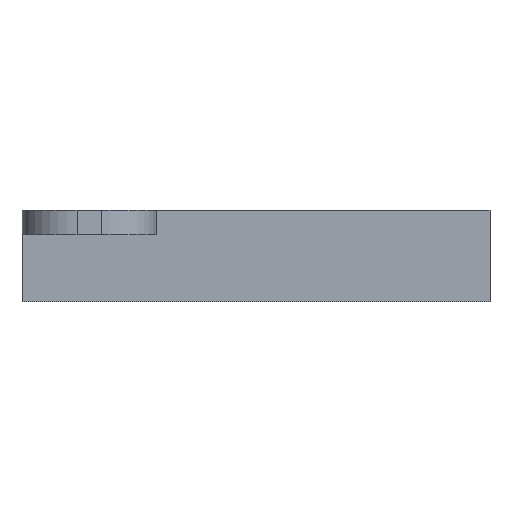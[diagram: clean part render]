
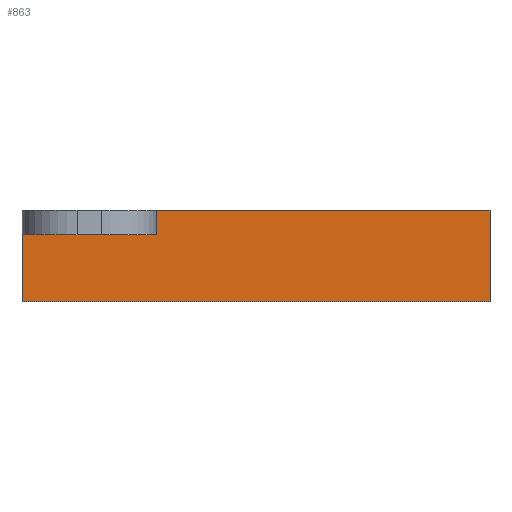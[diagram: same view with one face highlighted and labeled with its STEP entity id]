
A CAD part, front view. The second image highlights one B-rep face of the part: STEP entity #863.
In plain terms, the highlighted planar face has unit normal (0, -1, 0).
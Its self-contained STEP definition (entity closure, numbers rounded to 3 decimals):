
#31=PLANE('',#923);
#69=FACE_OUTER_BOUND('',#114,.T.);
#114=EDGE_LOOP('',(#685,#686,#687,#688,#689,#690));
#155=LINE('',#1205,#273);
#193=LINE('',#1285,#311);
#197=LINE('',#1292,#315);
#198=LINE('',#1295,#316);
#199=LINE('',#1297,#317);
#200=LINE('',#1298,#318);
#273=VECTOR('',#987,10.);
#311=VECTOR('',#1037,10.);
#315=VECTOR('',#1047,10.);
#316=VECTOR('',#1050,10.);
#317=VECTOR('',#1051,10.);
#318=VECTOR('',#1052,10.);
#401=VERTEX_POINT('',#1202);
#402=VERTEX_POINT('',#1204);
#437=VERTEX_POINT('',#1282);
#438=VERTEX_POINT('',#1284);
#439=VERTEX_POINT('',#1294);
#440=VERTEX_POINT('',#1296);
#489=EDGE_CURVE('',#401,#402,#155,.T.);
#529=EDGE_CURVE('',#438,#437,#193,.T.);
#533=EDGE_CURVE('',#401,#438,#197,.T.);
#534=EDGE_CURVE('',#439,#437,#198,.T.);
#535=EDGE_CURVE('',#439,#440,#199,.T.);
#536=EDGE_CURVE('',#440,#402,#200,.T.);
#685=ORIENTED_EDGE('',*,*,#533,.T.);
#686=ORIENTED_EDGE('',*,*,#529,.T.);
#687=ORIENTED_EDGE('',*,*,#534,.F.);
#688=ORIENTED_EDGE('',*,*,#535,.T.);
#689=ORIENTED_EDGE('',*,*,#536,.T.);
#690=ORIENTED_EDGE('',*,*,#489,.F.);
#863=ADVANCED_FACE('',(#69),#31,.T.);
#923=AXIS2_PLACEMENT_3D('',#1293,#1048,#1049);
#987=DIRECTION('',(1.,0.,0.));
#1037=DIRECTION('',(-1.,0.,0.));
#1047=DIRECTION('',(0.,0.,-1.));
#1048=DIRECTION('center_axis',(0.,-1.,0.));
#1049=DIRECTION('ref_axis',(1.,0.,0.));
#1050=DIRECTION('',(0.,0.,1.));
#1051=DIRECTION('',(1.,0.,0.));
#1052=DIRECTION('',(0.,0.,1.));
#1202=CARTESIAN_POINT('',(18.5,-5.,15.));
#1204=CARTESIAN_POINT('',(73.,-5.,15.));
#1205=CARTESIAN_POINT('',(-3.5,-5.,15.));
#1282=CARTESIAN_POINT('',(-3.5,-5.,11.));
#1284=CARTESIAN_POINT('',(18.5,-5.,11.));
#1285=CARTESIAN_POINT('',(-3.5,-5.,11.));
#1292=CARTESIAN_POINT('',(18.5,-5.,5.5));
#1293=CARTESIAN_POINT('Origin',(-3.5,-5.,0.));
#1294=CARTESIAN_POINT('',(-3.5,-5.,0.));
#1295=CARTESIAN_POINT('',(-3.5,-5.,0.));
#1296=CARTESIAN_POINT('',(73.,-5.,0.));
#1297=CARTESIAN_POINT('',(-3.5,-5.,0.));
#1298=CARTESIAN_POINT('',(73.,-5.,0.));
